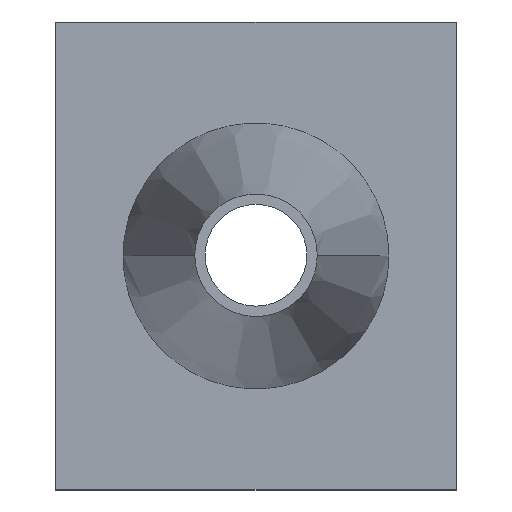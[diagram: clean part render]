
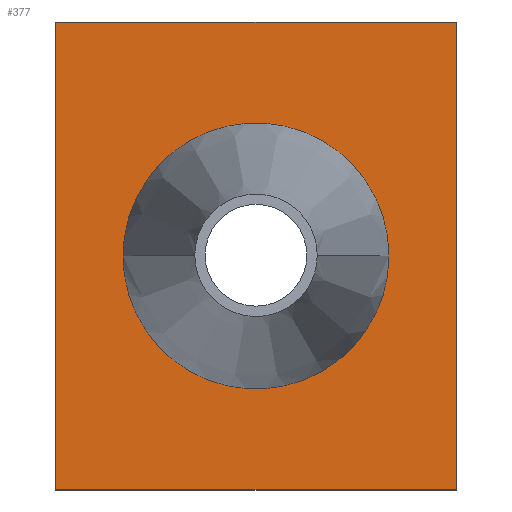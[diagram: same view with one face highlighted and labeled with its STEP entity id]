
A CAD part, top view. The second image highlights one B-rep face of the part: STEP entity #377.
In plain terms, the highlighted planar face has unit normal (0, 0, 1).
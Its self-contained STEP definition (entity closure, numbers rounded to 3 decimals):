
#167=CARTESIAN_POINT('Vertex',(0.,138.,3.)) ;
#174=CARTESIAN_POINT('Vertex',(0.,0.,3.)) ;
#177=CARTESIAN_POINT('Line Origine',(0.,69.,3.)) ;
#198=CARTESIAN_POINT('Vertex',(118.,138.,3.)) ;
#201=CARTESIAN_POINT('Line Origine',(59.,138.,3.)) ;
#222=CARTESIAN_POINT('Vertex',(118.,0.,3.)) ;
#225=CARTESIAN_POINT('Line Origine',(118.,69.,3.)) ;
#242=CARTESIAN_POINT('Line Origine',(59.,0.,3.)) ;
#324=CARTESIAN_POINT('Axis2P3D Location',(0.,0.,3.)) ;
#336=CARTESIAN_POINT('Control Point',(98.206,69.,3.)) ;
#337=CARTESIAN_POINT('Control Point',(98.206,75.15,3.)) ;
#338=CARTESIAN_POINT('Control Point',(97.,81.3,3.)) ;
#339=CARTESIAN_POINT('Control Point',(94.586,87.135,3.)) ;
#340=CARTESIAN_POINT('Control Point',(87.605,97.546,3.)) ;
#341=CARTESIAN_POINT('Control Point',(77.208,104.549,3.)) ;
#342=CARTESIAN_POINT('Control Point',(71.377,106.975,3.)) ;
#343=CARTESIAN_POINT('Control Point',(59.08,109.412,3.)) ;
#344=CARTESIAN_POINT('Control Point',(46.774,107.024,3.)) ;
#345=CARTESIAN_POINT('Control Point',(40.933,104.621,3.)) ;
#346=CARTESIAN_POINT('Control Point',(30.483,97.642,3.)) ;
#347=CARTESIAN_POINT('Control Point',(23.451,87.224,3.)) ;
#348=CARTESIAN_POINT('Control Point',(21.013,81.362,3.)) ;
#349=CARTESIAN_POINT('Control Point',(19.794,75.181,3.)) ;
#350=CARTESIAN_POINT('Control Point',(19.794,69.,3.)) ;
#351=CARTESIAN_POINT('Vertex',(98.206,69.,3.)) ;
#353=CARTESIAN_POINT('Vertex',(19.794,69.,3.)) ;
#357=CARTESIAN_POINT('Control Point',(98.206,69.,3.)) ;
#358=CARTESIAN_POINT('Control Point',(98.206,62.85,3.)) ;
#359=CARTESIAN_POINT('Control Point',(97.,56.7,3.)) ;
#360=CARTESIAN_POINT('Control Point',(94.586,50.865,3.)) ;
#361=CARTESIAN_POINT('Control Point',(87.605,40.454,3.)) ;
#362=CARTESIAN_POINT('Control Point',(77.208,33.451,3.)) ;
#363=CARTESIAN_POINT('Control Point',(71.377,31.025,3.)) ;
#364=CARTESIAN_POINT('Control Point',(59.08,28.588,3.)) ;
#365=CARTESIAN_POINT('Control Point',(46.774,30.976,3.)) ;
#366=CARTESIAN_POINT('Control Point',(40.933,33.379,3.)) ;
#367=CARTESIAN_POINT('Control Point',(30.483,40.358,3.)) ;
#368=CARTESIAN_POINT('Control Point',(23.451,50.776,3.)) ;
#369=CARTESIAN_POINT('Control Point',(21.013,56.638,3.)) ;
#370=CARTESIAN_POINT('Control Point',(19.794,62.819,3.)) ;
#371=CARTESIAN_POINT('Control Point',(19.794,69.,3.)) ;
#178=DIRECTION('Vector Direction',(0.,1.,0.)) ;
#202=DIRECTION('Vector Direction',(-1.,0.,0.)) ;
#226=DIRECTION('Vector Direction',(0.,1.,0.)) ;
#243=DIRECTION('Vector Direction',(1.,0.,0.)) ;
#325=DIRECTION('Axis2P3D Direction',(0.,0.,1.)) ;
#326=DIRECTION('Axis2P3D XDirection',(1.,0.,0.)) ;
#327=AXIS2_PLACEMENT_3D('Plane Axis2P3D',#324,#325,#326) ;
#330=ORIENTED_EDGE('',*,*,#181,.F.) ;
#331=ORIENTED_EDGE('',*,*,#246,.T.) ;
#332=ORIENTED_EDGE('',*,*,#229,.T.) ;
#333=ORIENTED_EDGE('',*,*,#205,.T.) ;
#374=ORIENTED_EDGE('',*,*,#355,.F.) ;
#375=ORIENTED_EDGE('',*,*,#372,.T.) ;
#376=FACE_BOUND('',#373,.T.) ;
#179=VECTOR('Line Direction',#178,1.) ;
#203=VECTOR('Line Direction',#202,1.) ;
#227=VECTOR('Line Direction',#226,1.) ;
#244=VECTOR('Line Direction',#243,1.) ;
#377=ADVANCED_FACE('PartBody',(#334,#376),#328,.T.) ;
#335=B_SPLINE_CURVE_WITH_KNOTS('',5,(#336,#337,#338,#339,#340,#341,#342,#343,#344,#345,#346,#347,#348,#349,#350),.UNSPECIFIED.,.F.,.U.,(6,3,3,3,6),(0.,32.924,65.852,98.781,131.872),.UNSPECIFIED.) ;
#356=B_SPLINE_CURVE_WITH_KNOTS('',5,(#357,#358,#359,#360,#361,#362,#363,#364,#365,#366,#367,#368,#369,#370,#371),.UNSPECIFIED.,.F.,.U.,(6,3,3,3,6),(0.,32.924,65.852,98.781,131.872),.UNSPECIFIED.) ;
#181=EDGE_CURVE('',#175,#168,#180,.T.) ;
#205=EDGE_CURVE('',#199,#168,#204,.T.) ;
#229=EDGE_CURVE('',#223,#199,#228,.T.) ;
#246=EDGE_CURVE('',#175,#223,#245,.T.) ;
#355=EDGE_CURVE('',#352,#354,#335,.T.) ;
#372=EDGE_CURVE('',#352,#354,#356,.T.) ;
#329=EDGE_LOOP('',(#330,#331,#332,#333)) ;
#373=EDGE_LOOP('',(#374,#375)) ;
#334=FACE_OUTER_BOUND('',#329,.T.) ;
#180=LINE('Line',#177,#179) ;
#204=LINE('Line',#201,#203) ;
#228=LINE('Line',#225,#227) ;
#245=LINE('Line',#242,#244) ;
#328=PLANE('',#327) ;
#168=VERTEX_POINT('',#167) ;
#175=VERTEX_POINT('',#174) ;
#199=VERTEX_POINT('',#198) ;
#223=VERTEX_POINT('',#222) ;
#352=VERTEX_POINT('',#351) ;
#354=VERTEX_POINT('',#353) ;
